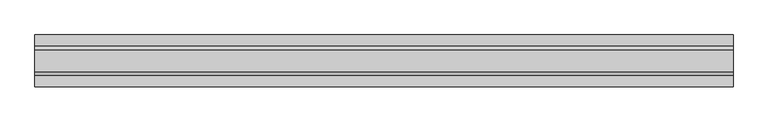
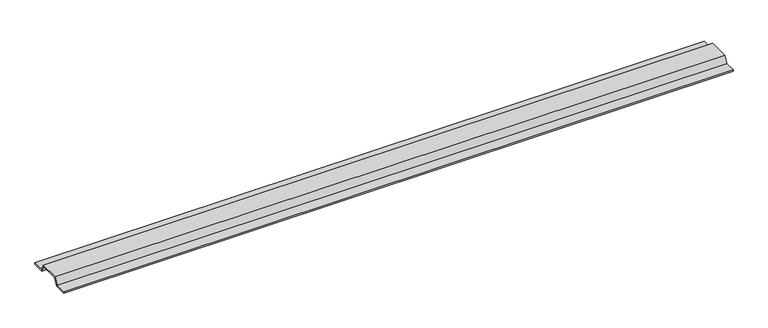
"""IFC4 building model written with IfcOpenShell, lengths in millimetres: beam geometry, B-Deck_Single_Flute_3d_14388 : B-Deck_Single_Flute_3d_14388."""

from ifc_helpers import new_model, si_unit, frame, origin, place, context, project, spatial, polyline, outline, extrude, source, transform, mapped, element, save


def beam_958abbb1(model_context):
    return source(origin(), model_context, "Body", "SweptSolid", [
        extrude(outline(polyline([(101.6, 6.35), (101.6, 0.0), (53.9397353, 0.0), (38.0647353, 27.4963066), (-38.0647353, 27.4963066), (-53.9397353, 0.0), (-101.6, 0.0), (-101.6, 6.35), (-57.6059095, 6.35), (-41.7309095, 33.8463066), (41.7309095, 33.8463066), (57.6059095, 6.35), (101.6, 6.35)])), frame((-1397.0, 0.0, 0.0), z_axis=(1.0, 0.0, 0.0), x_axis=(0.0, 1.0, 0.0)), (0.0, 0.0, 1.0), 2727.325),
    ])


if __name__ == "__main__":
    model = new_model("IFC4")
    model_context = context("Model", 3, world=origin())
    ifc_project = project(units=[si_unit("LENGTHUNIT", "METRE", prefix="MILLI")], contexts=[model_context])
    site = spatial("IfcSite", under=ifc_project)
    building = spatial("IfcBuilding", under=site)
    placement = place(None, origin())
    beam_shape = beam_958abbb1(model_context)
    element("IfcBeam", 1, ObjectType="B-Deck_Single_Flute_3d_14388 : B-Deck_Single_Flute_3d_14388", at=placement, inside=building, context=model_context, shape_type="MappedRepresentation", body=[
        mapped(beam_shape, transform((0.0, 0.0, 0.0), x_axis=(1.0, 0.0, 0.0), y_axis=(0.0, 1.0, 0.0), z_axis=(0.0, 0.0, 1.0))),
    ])
    save(model, "model.ifc")
